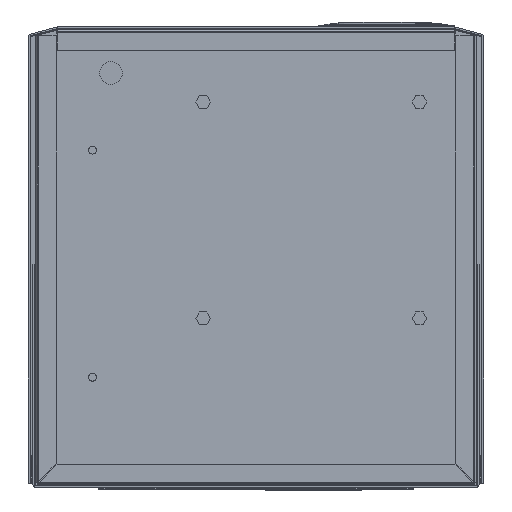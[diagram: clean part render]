
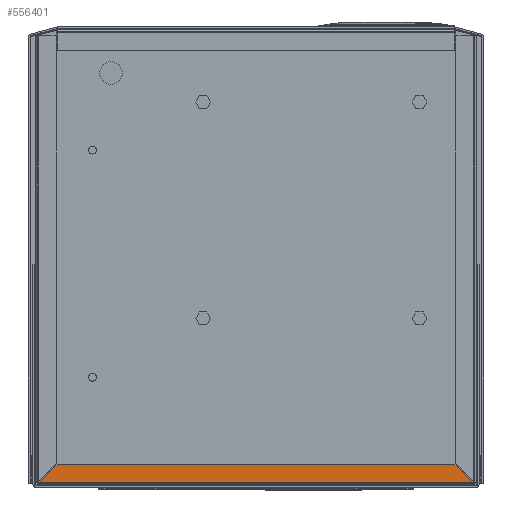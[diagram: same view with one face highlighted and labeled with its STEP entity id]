
A CAD part, front view. The second image highlights one B-rep face of the part: STEP entity #556401.
In plain terms, the highlighted planar face has unit normal (0, -1, 0) as drawn and (0, 0, -1) by its records, which use the part's own axes.
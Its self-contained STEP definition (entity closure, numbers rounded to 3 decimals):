
#2155 = VERTEX_POINT ( 'NONE', #593674 ) ;
#3781 = CARTESIAN_POINT ( 'NONE',  ( -191.87, -18., -35. ) ) ;
#6385 = VERTEX_POINT ( 'NONE', #598520 ) ;
#20082 = DIRECTION ( 'NONE',  ( 0., 0., 1. ) ) ;
#38868 = CARTESIAN_POINT ( 'NONE',  ( -191.083, -2.21, -35. ) ) ;
#53510 = CARTESIAN_POINT ( 'NONE',  ( 191.083, -2.21, -35. ) ) ;
#90444 = VECTOR ( 'NONE', #108243, 1000. ) ;
#105812 = LINE ( 'NONE', #206496, #90444 ) ;
#108243 = DIRECTION ( 'NONE',  ( -1., 0., 0. ) ) ;
#124542 = AXIS2_PLACEMENT_3D ( 'NONE', #312891, #20082, #362033 ) ;
#139249 = EDGE_LOOP ( 'NONE', ( #167427, #508109, #364541, #522427 ) ) ;
#167427 = ORIENTED_EDGE ( 'NONE', *, *, #482217, .F. ) ;
#169377 = EDGE_CURVE ( 'NONE', #384531, #506004, #105812, .T. ) ;
#190002 = VECTOR ( 'NONE', #394979, 1000. ) ;
#205295 = LINE ( 'NONE', #3781, #190002 ) ;
#206496 = CARTESIAN_POINT ( 'NONE',  ( -191.87, -2.21, -35. ) ) ;
#221011 = EDGE_CURVE ( 'NONE', #506004, #6385, #394881, .T. ) ;
#280154 = VECTOR ( 'NONE', #436306, 1000. ) ;
#312891 = CARTESIAN_POINT ( 'NONE',  ( 0., 0., -35. ) ) ;
#350270 = EDGE_CURVE ( 'NONE', #6385, #2155, #205295, .T. ) ;
#362033 = DIRECTION ( 'NONE',  ( 0., -1., 0. ) ) ;
#364541 = ORIENTED_EDGE ( 'NONE', *, *, #221011, .F. ) ;
#380542 = DIRECTION ( 'NONE',  ( 0.707, 0.707, 0. ) ) ;
#384531 = VERTEX_POINT ( 'NONE', #53510 ) ;
#394881 = LINE ( 'NONE', #38868, #280154 ) ;
#394979 = DIRECTION ( 'NONE',  ( 1., 0., 0. ) ) ;
#436306 = DIRECTION ( 'NONE',  ( 0.707, -0.707, 0. ) ) ;
#482217 = EDGE_CURVE ( 'NONE', #2155, #384531, #509184, .T. ) ;
#485484 = CARTESIAN_POINT ( 'NONE',  ( -191.083, -2.21, -35. ) ) ;
#493980 = VECTOR ( 'NONE', #380542, 1000. ) ;
#506004 = VERTEX_POINT ( 'NONE', #485484 ) ;
#508109 = ORIENTED_EDGE ( 'NONE', *, *, #350270, .F. ) ;
#509184 = LINE ( 'NONE', #623975, #493980 ) ;
#522427 = ORIENTED_EDGE ( 'NONE', *, *, #169377, .F. ) ;
#538257 = FACE_OUTER_BOUND ( 'NONE', #139249, .T. ) ;
#556401 = ADVANCED_FACE ( 'NONE', ( #538257 ), #605491, .F. ) ;
#593674 = CARTESIAN_POINT ( 'NONE',  ( 175.293, -18., -35. ) ) ;
#598520 = CARTESIAN_POINT ( 'NONE',  ( -175.293, -18., -35. ) ) ;
#605491 = PLANE ( 'NONE',  #124542 ) ;
#623975 = CARTESIAN_POINT ( 'NONE',  ( -79.382, -272.675, -35. ) ) ;
